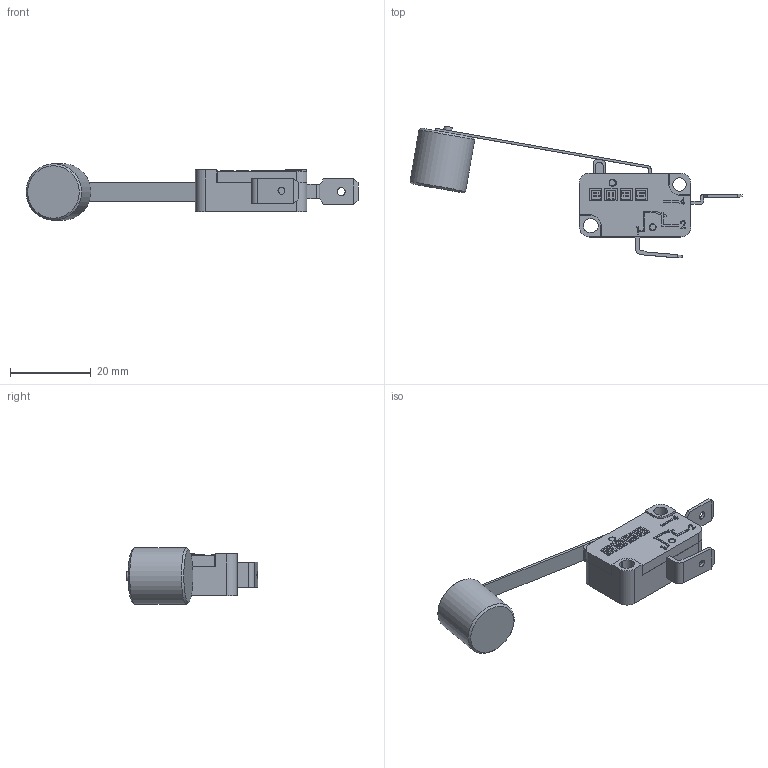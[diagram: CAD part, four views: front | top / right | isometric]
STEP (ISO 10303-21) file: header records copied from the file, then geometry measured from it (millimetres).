
FILE_DESCRIPTION((''),'2; 1');
FILE_NAME('','2026-03-27T16:19:40',(''),(''),'CST STEP Exporter V1.0','Unknown','');
FILE_SCHEMA(('CONFIG_CONTROL_DESIGN'));
Length unit declared in the file: metre
Assembly tree (9 placements, depth 2):
  (unnamed)
    (unnamed)
    (unnamed)
    (unnamed)
    (unnamed)
    (unnamed)
    (unnamed)
    (unnamed)
    (unnamed)
    (unnamed)
Bounding box: 82.3 x 32.69 x 14 mm (x, y, z)
Surface area: 9236.9 mm2 (no closed solid volume)
Topology: 0 solids, 9 shells, 252 faces, 1002 edges, 758 vertices
Faces by surface type: plane 212, cylinder 32, extrusion 6, cone 2
Full cylindrical faces by diameter (mm): 1.5 x2, 1.7 x1, 1.75 x2, 1.95 x1, 2 x1, 3.4 x1, 14 x1
Entity records: 12621 total; most frequent: CARTESIAN_POINT 2186, DIRECTION 1628, ORIENTED_EDGE 1563, EDGE_CURVE 988, VECTOR 822, LINE 816, VERTEX_POINT 755, AXIS2_PLACEMENT_3D 403
